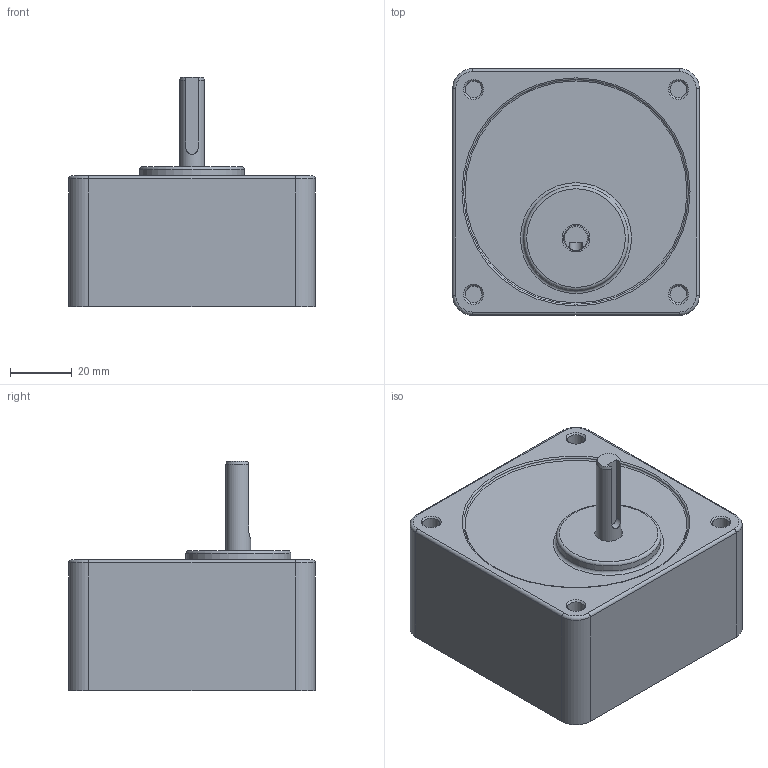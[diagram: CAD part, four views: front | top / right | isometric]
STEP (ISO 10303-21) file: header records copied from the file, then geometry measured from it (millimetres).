
FILE_DESCRIPTION((''),'2;1');
FILE_NAME('D:\미주향3D\GEAR HEAD\GEARHEAD\ㅁ80 25W\S8KA20~200.stp','2013-12-13T13:14:38',('leebh'),(''),'Autodesk Inventor 2011','Autodesk Inventor 2011','');
FILE_SCHEMA(('AUTOMOTIVE_DESIGN { 1 0 10303 214 1 1 1 1 }'));
Length unit declared in the file: millimetre
Products named in the file (1): 부품7
Bounding box: 80 x 80 x 74.5 mm (x, y, z)
Volume: 246331.2 mm3; surface area: 30905.1 mm2
Topology: 1 solids, 1 shells, 50 faces, 100 edges, 62 vertices
Faces by surface type: plane 19, cylinder 18, torus 8, cone 5
Full cylindrical faces by diameter (mm): 5.5 x4, 8 x2, 9 x1, 34 x1, 73 x1
Entity records: 1245 total; most frequent: DIRECTION 229, CARTESIAN_POINT 216, ORIENTED_EDGE 164, AXIS2_PLACEMENT_3D 100, EDGE_CURVE 82, EDGE_LOOP 77, VERTEX_POINT 61, FACE_OUTER_BOUND 50
